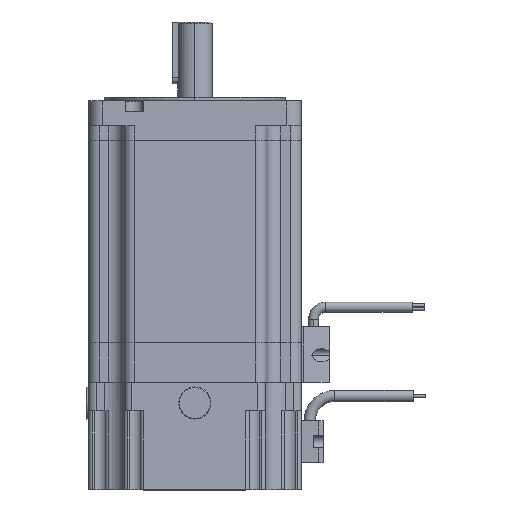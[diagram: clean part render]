
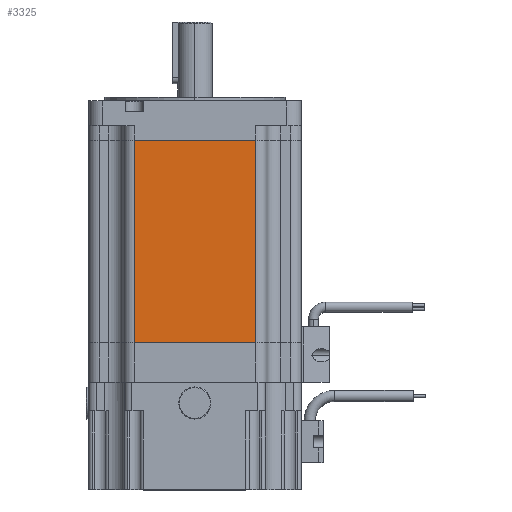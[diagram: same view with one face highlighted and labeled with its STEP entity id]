
A CAD part, top view. The second image highlights one B-rep face of the part: STEP entity #3325.
In plain terms, the highlighted planar face has unit normal (0, 0, 1).
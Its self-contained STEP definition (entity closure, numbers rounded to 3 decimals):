
#330 = LINE ( 'NONE', #7472, #4685 ) ;
#457 = EDGE_LOOP ( 'NONE', ( #2236, #9018, #9984, #7986 ) ) ;
#520 = LINE ( 'NONE', #4574, #11637 ) ;
#989 = DIRECTION ( 'NONE',  ( -1., 0., 0. ) ) ;
#1113 = DIRECTION ( 'NONE',  ( 0., 1., 0. ) ) ;
#1240 = LINE ( 'NONE', #4230, #11972 ) ;
#2177 = EDGE_CURVE ( 'NONE', #8709, #9900, #6862, .T. ) ;
#2236 = ORIENTED_EDGE ( 'NONE', *, *, #7319, .F. ) ;
#2599 = DIRECTION ( 'NONE',  ( 1., 0., 0. ) ) ;
#3033 = CARTESIAN_POINT ( 'NONE',  ( 37.3, 10., 43. ) ) ;
#3325 = ADVANCED_FACE ( 'NONE', ( #8130 ), #10178, .F. ) ;
#3501 = EDGE_CURVE ( 'NONE', #4559, #8709, #520, .T. ) ;
#3538 = VERTEX_POINT ( 'NONE', #9860 ) ;
#3582 = CARTESIAN_POINT ( 'NONE',  ( 37.3, -6.008, 43. ) ) ;
#4230 = CARTESIAN_POINT ( 'NONE',  ( 24.65, -104., 43. ) ) ;
#4559 = VERTEX_POINT ( 'NONE', #11024 ) ;
#4574 = CARTESIAN_POINT ( 'NONE',  ( -24.65, -104., 43. ) ) ;
#4685 = VECTOR ( 'NONE', #8537, 1000. ) ;
#6065 = CARTESIAN_POINT ( 'NONE',  ( -24.65, -6.008, 43. ) ) ;
#6862 = LINE ( 'NONE', #3582, #10622 ) ;
#7319 = EDGE_CURVE ( 'NONE', #3538, #4559, #330, .T. ) ;
#7472 = CARTESIAN_POINT ( 'NONE',  ( 37.3, -87.992, 43. ) ) ;
#7655 = DIRECTION ( 'NONE',  ( 0., 1., 0. ) ) ;
#7986 = ORIENTED_EDGE ( 'NONE', *, *, #3501, .F. ) ;
#8130 = FACE_OUTER_BOUND ( 'NONE', #457, .T. ) ;
#8537 = DIRECTION ( 'NONE',  ( -1., 0., 0. ) ) ;
#8709 = VERTEX_POINT ( 'NONE', #6065 ) ;
#9018 = ORIENTED_EDGE ( 'NONE', *, *, #11745, .T. ) ;
#9113 = DIRECTION ( 'NONE',  ( 0., 0., -1. ) ) ;
#9860 = CARTESIAN_POINT ( 'NONE',  ( 24.65, -87.992, 43. ) ) ;
#9900 = VERTEX_POINT ( 'NONE', #11018 ) ;
#9984 = ORIENTED_EDGE ( 'NONE', *, *, #2177, .F. ) ;
#10124 = AXIS2_PLACEMENT_3D ( 'NONE', #3033, #9113, #989 ) ;
#10178 = PLANE ( 'NONE',  #10124 ) ;
#10622 = VECTOR ( 'NONE', #2599, 1000. ) ;
#11018 = CARTESIAN_POINT ( 'NONE',  ( 24.65, -6.008, 43. ) ) ;
#11024 = CARTESIAN_POINT ( 'NONE',  ( -24.65, -87.992, 43. ) ) ;
#11637 = VECTOR ( 'NONE', #7655, 1000. ) ;
#11745 = EDGE_CURVE ( 'NONE', #3538, #9900, #1240, .T. ) ;
#11972 = VECTOR ( 'NONE', #1113, 1000. ) ;
